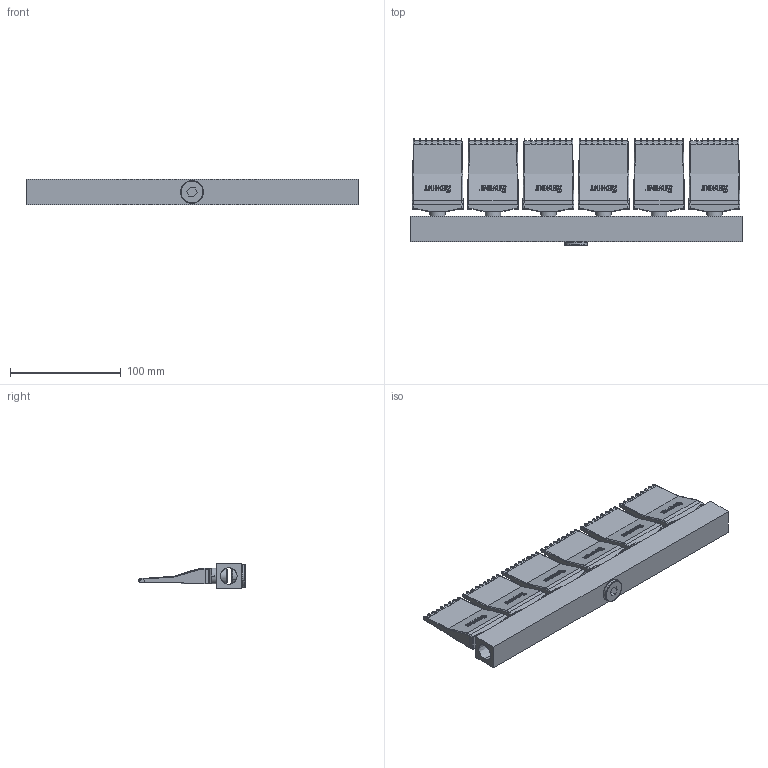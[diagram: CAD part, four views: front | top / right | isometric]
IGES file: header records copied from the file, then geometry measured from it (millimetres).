
Start section: SolidWorks IGES file using analytic representation for surfaces
Global section: file name: C:\Users\p.jaasko\Silvent\ENGINEERING - Documents\General\Drawings\WEB CAD\NEW CAD 2026\SILVENT_396.IGS; native system: SolidWorks 2021; preprocessor: SolidWorks 2021; author: p.jaasko; date: 250829.084255; units: millimetre
Bounding box: 300 x 96.5 x 23 mm (x, y, z)
Surface area: 95293.7 mm2 (no closed solid volume)
Topology: 0 solids, 0 shells, 1860 faces, 14958 edges, 14946 vertices
Faces by surface type: bspline 1094, revolution 766
